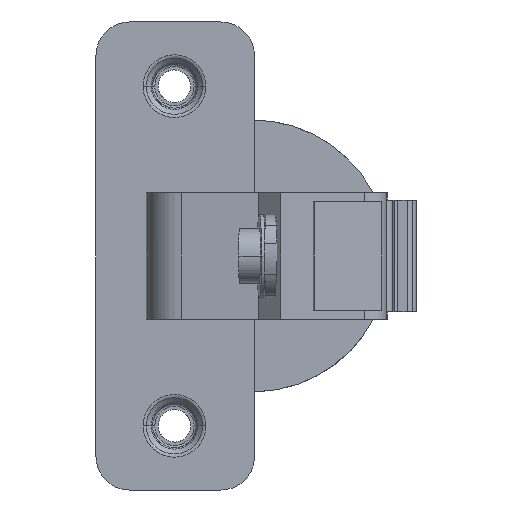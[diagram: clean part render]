
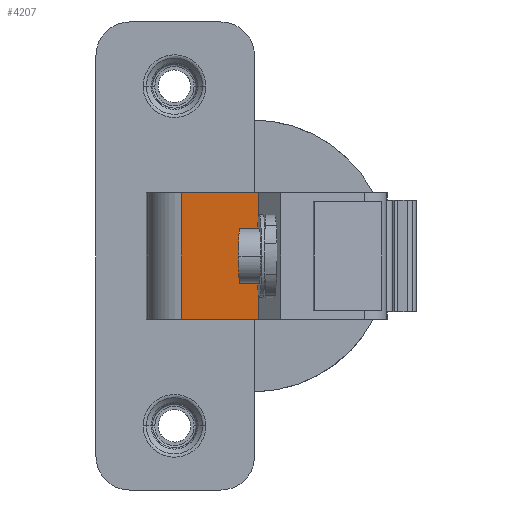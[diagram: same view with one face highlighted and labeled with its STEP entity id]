
A CAD part, left-side view. The second image highlights one B-rep face of the part: STEP entity #4207.
In plain terms, the highlighted planar face has unit normal (-0.993, 0.116, 0).
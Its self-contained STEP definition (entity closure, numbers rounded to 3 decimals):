
#68 = ORIENTED_EDGE ( 'NONE', *, *, #2238, .F. ) ;
#293 = DIRECTION ( 'NONE',  ( 0., 0., -1. ) ) ;
#399 = CARTESIAN_POINT ( 'NONE',  ( 20.12, 32.411, -8.4 ) ) ;
#448 = ORIENTED_EDGE ( 'NONE', *, *, #1856, .F. ) ;
#760 = EDGE_LOOP ( 'NONE', ( #68, #448, #2861, #5960 ) ) ;
#911 = CARTESIAN_POINT ( 'NONE',  ( 20.12, 32.411, 2.8 ) ) ;
#926 = CARTESIAN_POINT ( 'NONE',  ( 19.719, 28.983, 8.4 ) ) ;
#1225 = CARTESIAN_POINT ( 'NONE',  ( 20.12, 32.411, -8.4 ) ) ;
#1762 = CARTESIAN_POINT ( 'NONE',  ( 18.915, 22.128, -2.8 ) ) ;
#1773 = FACE_OUTER_BOUND ( 'NONE', #760, .T. ) ;
#1856 = EDGE_CURVE ( 'NONE', #3523, #3199, #4296, .T. ) ;
#1953 = CARTESIAN_POINT ( 'NONE',  ( 20.12, 32.411, 8.4 ) ) ;
#2238 = EDGE_CURVE ( 'NONE', #3199, #4912, #4052, .T. ) ;
#2317 = VERTEX_POINT ( 'NONE', #4419 ) ;
#2368 = CARTESIAN_POINT ( 'NONE',  ( 18.915, 22.128, 8.4 ) ) ;
#2421 = CARTESIAN_POINT ( 'NONE',  ( 18.915, 22.128, 8.4 ) ) ;
#2442 = CARTESIAN_POINT ( 'NONE',  ( 20.12, 32.411, -8.4 ) ) ;
#2534 = EDGE_CURVE ( 'NONE', #2317, #3523, #5747, .T. ) ;
#2786 = CARTESIAN_POINT ( 'NONE',  ( 20.12, 32.411, 8.4 ) ) ;
#2861 = ORIENTED_EDGE ( 'NONE', *, *, #2534, .F. ) ;
#3184 = CARTESIAN_POINT ( 'NONE',  ( 18.915, 22.128, -8.4 ) ) ;
#3199 = VERTEX_POINT ( 'NONE', #1953 ) ;
#3243 = CARTESIAN_POINT ( 'NONE',  ( 18.915, 22.128, 8.4 ) ) ;
#3274 = DIRECTION ( 'NONE',  ( 0.993, -0.116, 0. ) ) ;
#3523 = VERTEX_POINT ( 'NONE', #2442 ) ;
#3677 = CARTESIAN_POINT ( 'NONE',  ( 19.317, 25.556, -8.4 ) ) ;
#3871 = CARTESIAN_POINT ( 'NONE',  ( 20.12, 32.411, -2.8 ) ) ;
#4052 = B_SPLINE_CURVE_WITH_KNOTS ( 'NONE', 3,
 ( #4358, #926, #5343, #2421 ),
 .UNSPECIFIED., .F., .F.,
 ( 4, 4 ),
 ( 0., 1. ),
 .UNSPECIFIED. ) ;
#4162 = CARTESIAN_POINT ( 'NONE',  ( 19.719, 28.983, -8.4 ) ) ;
#4207 = ADVANCED_FACE ( 'NONE', ( #1773 ), #4700, .F. ) ;
#4296 = B_SPLINE_CURVE_WITH_KNOTS ( 'NONE', 3,
 ( #399, #3871, #911, #4347 ),
 .UNSPECIFIED., .F., .F.,
 ( 4, 4 ),
 ( 0., 1. ),
 .UNSPECIFIED. ) ;
#4347 = CARTESIAN_POINT ( 'NONE',  ( 20.12, 32.411, 8.4 ) ) ;
#4358 = CARTESIAN_POINT ( 'NONE',  ( 20.12, 32.411, 8.4 ) ) ;
#4419 = CARTESIAN_POINT ( 'NONE',  ( 18.915, 22.128, -8.4 ) ) ;
#4700 = PLANE ( 'NONE',  #5057 ) ;
#4791 = EDGE_CURVE ( 'NONE', #2317, #4912, #5693, .T. ) ;
#4912 = VERTEX_POINT ( 'NONE', #2368 ) ;
#5057 = AXIS2_PLACEMENT_3D ( 'NONE', #2786, #3274, #293 ) ;
#5184 = CARTESIAN_POINT ( 'NONE',  ( 18.915, 22.128, -8.4 ) ) ;
#5343 = CARTESIAN_POINT ( 'NONE',  ( 19.317, 25.556, 8.4 ) ) ;
#5693 = B_SPLINE_CURVE_WITH_KNOTS ( 'NONE', 3,
 ( #5184, #1762, #6162, #3243 ),
 .UNSPECIFIED., .F., .F.,
 ( 4, 4 ),
 ( 0., 1. ),
 .UNSPECIFIED. ) ;
#5747 = B_SPLINE_CURVE_WITH_KNOTS ( 'NONE', 3,
 ( #3184, #3677, #4162, #1225 ),
 .UNSPECIFIED., .F., .F.,
 ( 4, 4 ),
 ( 0., 1. ),
 .UNSPECIFIED. ) ;
#5960 = ORIENTED_EDGE ( 'NONE', *, *, #4791, .T. ) ;
#6162 = CARTESIAN_POINT ( 'NONE',  ( 18.915, 22.128, 2.8 ) ) ;
